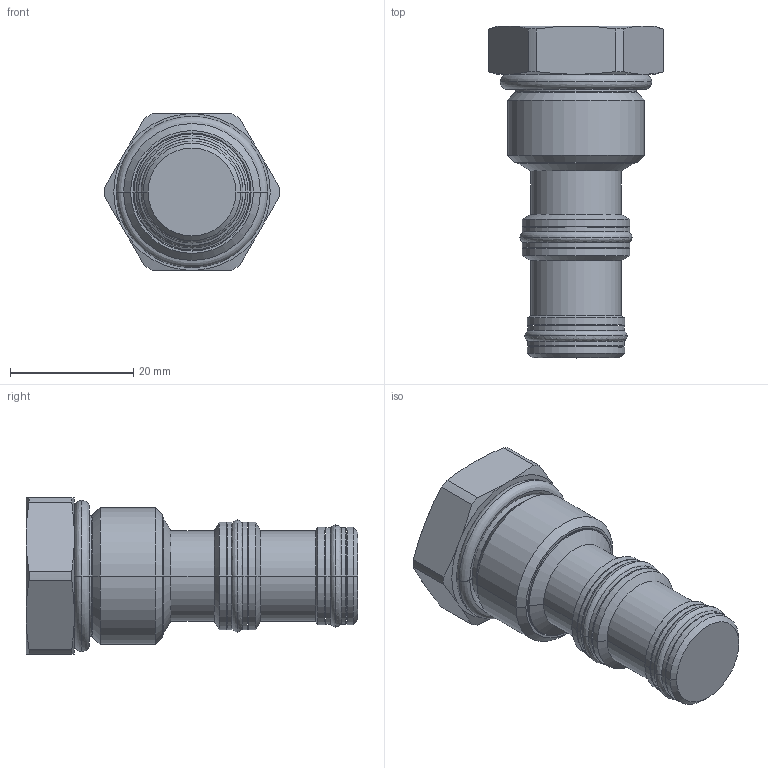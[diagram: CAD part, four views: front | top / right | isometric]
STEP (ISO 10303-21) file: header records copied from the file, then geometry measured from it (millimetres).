
FILE_DESCRIPTION((''),'2;1');
FILE_NAME('5291300_SW0004','2009-01-26T',('jcs'),(''),'PRO/ENGINEER BY PARAMETRIC TECHNOLOGY CORPORATION, 2008010','PRO/ENGINEER BY PARAMETRIC TECHNOLOGY CORPORATION, 2008010','');
FILE_SCHEMA(('CONFIG_CONTROL_DESIGN'));
Length unit declared in the file: inch
Products named in the file (1): 5291300_SW0004
Bounding box: 28.44 x 53.87 x 25.34 mm (x, y, z)
Volume: 15525.6 mm3; surface area: 6793.9 mm2
Topology: 3 solids, 4 shells, 146 faces, 310 edges, 180 vertices
Faces by surface type: cylinder 42, cone 40, revolution 24, plane 22, torus 18
Entity records: 4686 total; most frequent: CARTESIAN_POINT 1468, DIRECTION 704, ORIENTED_EDGE 620, EDGE_CURVE 310, AXIS2_PLACEMENT_3D 296, VERTEX_POINT 180, CIRCLE 174, EDGE_LOOP 158
